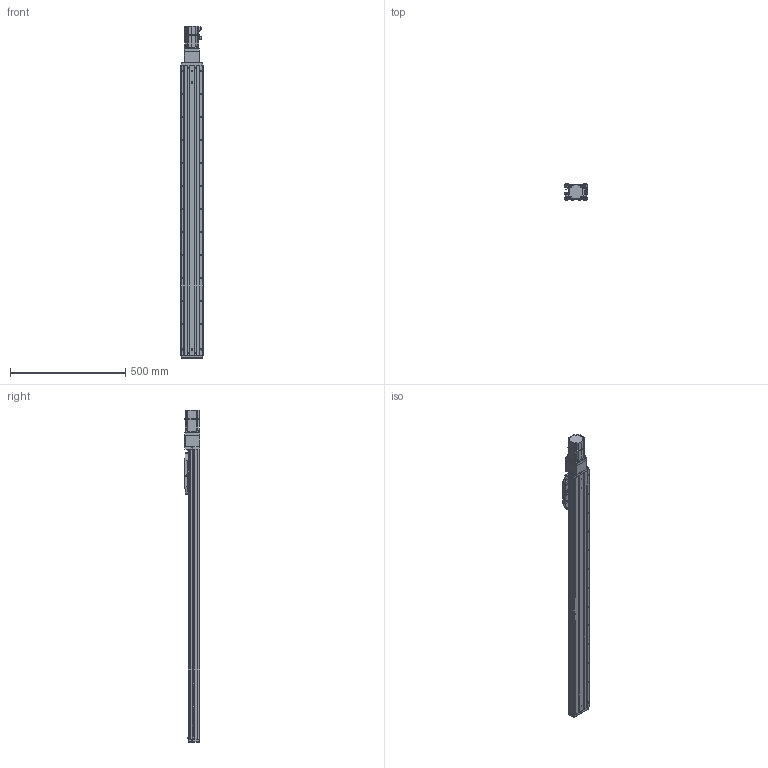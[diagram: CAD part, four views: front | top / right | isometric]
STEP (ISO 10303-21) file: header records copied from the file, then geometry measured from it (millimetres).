
FILE_DESCRIPTION (( 'STEP AP203' ), '1' );
FILE_NAME ('CTHA100-1050-BC-M20-C4L.step', '2022-07-06T08:51:25', ( '微软用户' ), ( '微软中国' ), 'SwSTEP 2.0', 'SolidWorks 2020', '' );
FILE_SCHEMA (( 'CONFIG_CONTROL_DESIGN' ));
Length unit declared in the file: millimetre
Products named in the file (20): KTHA100-005; GBT70.1 M5℅16; CTHA100-002; GB¨uT 70.2-M3¡Á5_M3¡Á6; CTHA60-016; CTHA100-031; EE_SX911P_R; _X2_4E0983F1_X0_200W_1; CTHA86-030; CTHA60-017; CTHA86-013; CTHA100-1050-BC-M20-C4L; CTHA60-021; CTHA86-027; KTHA100-001_1260; GBT77-2000 M3×3; CTHA86-006-1_CTHA86-006-2; KTHA100-004; GBT 70.1-M3℅6; GBT 70.3-M3℅6
Assembly tree (63 placements, depth 2):
  CTHA100-1050-BC-M20-C4L
    KTHA100-001_1260
    KTHA100-004
    KTHA100-005
    GB¨uT 70.2-M3¡Á5_M3¡Á6  x10
    EE_SX911P_R  x3
    CTHA60-017  x3
    CTHA60-021  x2
    GBT77-2000 M3×3  x6
    GBT 70.1-M3℅6  x6
    GBT70.1 M5℅16  x14
    CTHA60-016  x2
    _X2_4E0983F1_X0_200W_1
    CTHA86-013
    CTHA86-027
    CTHA86-006-1_CTHA86-006-2
    GBT 70.3-M3℅6  x6
    CTHA100-002
    CTHA100-031
    CTHA86-030  x2
Bounding box: 98.82 x 68 x 1442.5 mm (x, y, z)
Volume: 5080152.4 mm3; surface area: 851012.9 mm2
Topology: 65 solids, 65 shells, 2739 faces, 6606 edges, 4084 vertices
Faces by surface type: plane 1435, cylinder 715, cone 384, torus 112, bspline 69, sphere 24
Entity records: 48872 total; most frequent: CARTESIAN_POINT 9122, DIRECTION 7701, ORIENTED_EDGE 7484, EDGE_CURVE 3742, AXIS2_PLACEMENT_3D 2599, VECTOR 2503, LINE 2503, VERTEX_POINT 2362
